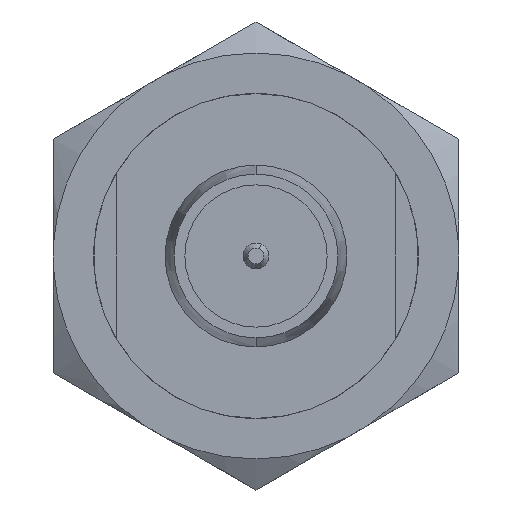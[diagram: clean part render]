
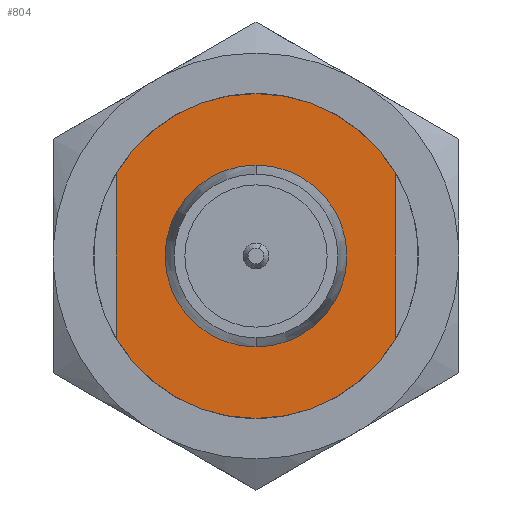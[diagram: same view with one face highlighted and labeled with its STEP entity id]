
A CAD part, left-side view. The second image highlights one B-rep face of the part: STEP entity #804.
In plain terms, the highlighted planar face has unit normal (-1, 0, 0).
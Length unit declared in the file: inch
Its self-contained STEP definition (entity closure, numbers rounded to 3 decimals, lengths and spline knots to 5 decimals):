
#9 = PLANE ( 'NONE',  #273 ) ;
#22 = CARTESIAN_POINT ( 'NONE',  ( 0.2, 0., 0. ) ) ;
#36 = DIRECTION ( 'NONE',  ( 0., 0., 1. ) ) ;
#128 = VERTEX_POINT ( 'NONE', #1568 ) ;
#192 = ORIENTED_EDGE ( 'NONE', *, *, #1282, .T. ) ;
#216 = EDGE_CURVE ( 'NONE', #1570, #128, #2484, .T. ) ;
#266 = DIRECTION ( 'NONE',  ( -1., 0., 0. ) ) ;
#273 = AXIS2_PLACEMENT_3D ( 'NONE', #1691, #1134, #2507 ) ;
#311 = CIRCLE ( 'NONE', #1673, 0.125 ) ;
#315 = ORIENTED_EDGE ( 'NONE', *, *, #768, .T. ) ;
#401 = CIRCLE ( 'NONE', #1397, 0.125 ) ;
#474 = VERTEX_POINT ( 'NONE', #2552 ) ;
#508 = AXIS2_PLACEMENT_3D ( 'NONE', #2966, #2724, #1170 ) ;
#523 = CARTESIAN_POINT ( 'NONE',  ( 0.2, 0.10775, -0.06336 ) ) ;
#554 = DIRECTION ( 'NONE',  ( 0., 0., 1. ) ) ;
#602 = EDGE_CURVE ( 'NONE', #2872, #3052, #311, .T. ) ;
#626 = DIRECTION ( 'NONE',  ( -1., 0., 0. ) ) ;
#690 = DIRECTION ( 'NONE',  ( 0., 0., -1. ) ) ;
#721 = EDGE_CURVE ( 'NONE', #2358, #474, #3010, .T. ) ;
#747 = DIRECTION ( 'NONE',  ( -1., 0., 0. ) ) ;
#768 = EDGE_CURVE ( 'NONE', #2358, #2872, #1080, .T. ) ;
#784 = DIRECTION ( 'NONE',  ( 0., 0., 1. ) ) ;
#804 = ADVANCED_FACE ( 'NONE', ( #2210, #1585 ), #9, .F. ) ;
#832 = LINE ( 'NONE', #1027, #1380 ) ;
#1027 = CARTESIAN_POINT ( 'NONE',  ( 0.2, 0.10775, 0. ) ) ;
#1080 = CIRCLE ( 'NONE', #508, 0.125 ) ;
#1134 = DIRECTION ( 'NONE',  ( 1., 0., 0. ) ) ;
#1170 = DIRECTION ( 'NONE',  ( 0., 0., 1. ) ) ;
#1200 = CARTESIAN_POINT ( 'NONE',  ( 0.2, 0., 0. ) ) ;
#1219 = CARTESIAN_POINT ( 'NONE',  ( 0.2, -0.10775, 0.06336 ) ) ;
#1249 = DIRECTION ( 'NONE',  ( -1., 0., 0. ) ) ;
#1255 = DIRECTION ( 'NONE',  ( -1., 0., 0. ) ) ;
#1282 = EDGE_CURVE ( 'NONE', #2214, #474, #401, .T. ) ;
#1380 = VECTOR ( 'NONE', #784, 39.37008 ) ;
#1386 = CARTESIAN_POINT ( 'NONE',  ( 0.2, 0., 0.0645 ) ) ;
#1390 = CARTESIAN_POINT ( 'NONE',  ( 0.2, 0., 0. ) ) ;
#1397 = AXIS2_PLACEMENT_3D ( 'NONE', #22, #1255, #1439 ) ;
#1406 = ORIENTED_EDGE ( 'NONE', *, *, #2087, .F. ) ;
#1439 = DIRECTION ( 'NONE',  ( 0., 0., 1. ) ) ;
#1453 = ORIENTED_EDGE ( 'NONE', *, *, #216, .F. ) ;
#1568 = CARTESIAN_POINT ( 'NONE',  ( 0.2, 0., -0.0645 ) ) ;
#1570 = VERTEX_POINT ( 'NONE', #1386 ) ;
#1585 = FACE_OUTER_BOUND ( 'NONE', #1967, .T. ) ;
#1628 = CARTESIAN_POINT ( 'NONE',  ( 0.2, 0., 0.125 ) ) ;
#1673 = AXIS2_PLACEMENT_3D ( 'NONE', #1390, #266, #36 ) ;
#1690 = VECTOR ( 'NONE', #690, 39.37008 ) ;
#1691 = CARTESIAN_POINT ( 'NONE',  ( 0.2, 0.0645, 0. ) ) ;
#1706 = EDGE_CURVE ( 'NONE', #1747, #2214, #2248, .T. ) ;
#1747 = VERTEX_POINT ( 'NONE', #523 ) ;
#1818 = AXIS2_PLACEMENT_3D ( 'NONE', #3041, #626, #2047 ) ;
#1919 = AXIS2_PLACEMENT_3D ( 'NONE', #2435, #1249, #2867 ) ;
#1967 = EDGE_LOOP ( 'NONE', ( #1406, #2379, #192, #2912, #315, #3009 ) ) ;
#1998 = EDGE_CURVE ( 'NONE', #128, #1570, #2914, .T. ) ;
#2047 = DIRECTION ( 'NONE',  ( 0., 0., 1. ) ) ;
#2059 = EDGE_LOOP ( 'NONE', ( #1453, #3004 ) ) ;
#2087 = EDGE_CURVE ( 'NONE', #1747, #3052, #832, .T. ) ;
#2155 = AXIS2_PLACEMENT_3D ( 'NONE', #1200, #747, #554 ) ;
#2165 = CARTESIAN_POINT ( 'NONE',  ( 0.2, 0., -0.125 ) ) ;
#2210 = FACE_BOUND ( 'NONE', #2059, .T. ) ;
#2214 = VERTEX_POINT ( 'NONE', #2165 ) ;
#2248 = CIRCLE ( 'NONE', #2155, 0.125 ) ;
#2358 = VERTEX_POINT ( 'NONE', #1219 ) ;
#2379 = ORIENTED_EDGE ( 'NONE', *, *, #1706, .T. ) ;
#2435 = CARTESIAN_POINT ( 'NONE',  ( 0.2, 0., 0. ) ) ;
#2484 = CIRCLE ( 'NONE', #1818, 0.0645 ) ;
#2492 = CARTESIAN_POINT ( 'NONE',  ( 0.2, -0.10775, 0. ) ) ;
#2507 = DIRECTION ( 'NONE',  ( 0., 0., -1. ) ) ;
#2552 = CARTESIAN_POINT ( 'NONE',  ( 0.2, -0.10775, -0.06336 ) ) ;
#2724 = DIRECTION ( 'NONE',  ( -1., 0., 0. ) ) ;
#2867 = DIRECTION ( 'NONE',  ( 0., 0., 1. ) ) ;
#2872 = VERTEX_POINT ( 'NONE', #1628 ) ;
#2912 = ORIENTED_EDGE ( 'NONE', *, *, #721, .F. ) ;
#2914 = CIRCLE ( 'NONE', #1919, 0.0645 ) ;
#2966 = CARTESIAN_POINT ( 'NONE',  ( 0.2, 0., 0. ) ) ;
#2999 = CARTESIAN_POINT ( 'NONE',  ( 0.2, 0.10775, 0.06336 ) ) ;
#3004 = ORIENTED_EDGE ( 'NONE', *, *, #1998, .F. ) ;
#3009 = ORIENTED_EDGE ( 'NONE', *, *, #602, .T. ) ;
#3010 = LINE ( 'NONE', #2492, #1690 ) ;
#3041 = CARTESIAN_POINT ( 'NONE',  ( 0.2, 0., 0. ) ) ;
#3052 = VERTEX_POINT ( 'NONE', #2999 ) ;
